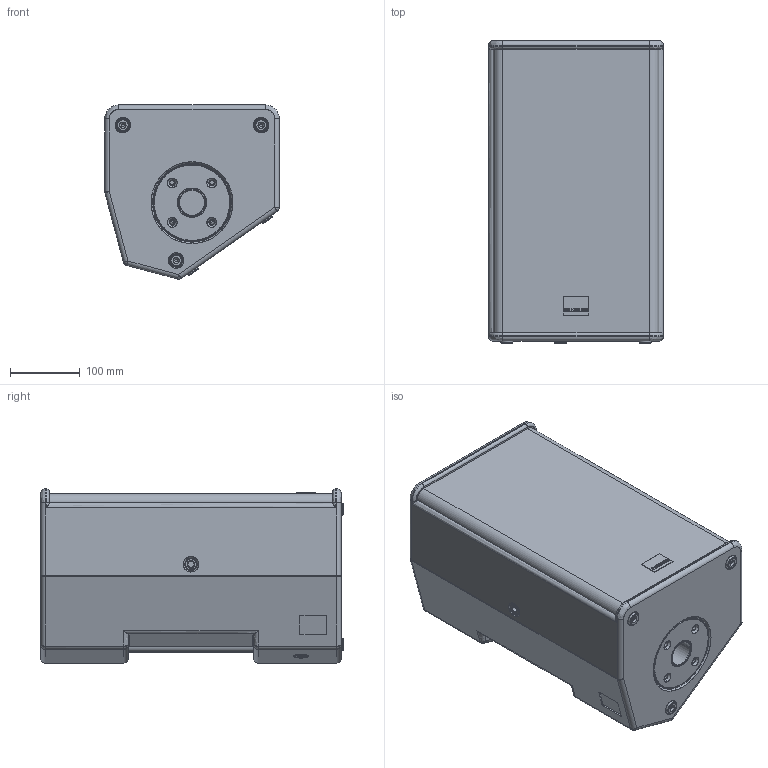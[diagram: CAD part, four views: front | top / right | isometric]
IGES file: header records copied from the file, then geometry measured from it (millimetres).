
Start section: SolidWorks IGES file using analytic representation for surfaces
Global section: file name: C:\Dokumente und Einstellungen\PC_Fabian\Desktop\TS-Serie\Seeburg_TSM8.IGS; native system: SolidWorks 2009; preprocessor: SolidWorks 2009; author: PC_Fabian; date: 121017.132450; units: millimetre
Bounding box: 250 x 433 x 249.43 mm (x, y, z)
Surface area: 1037962.5 mm2 (no closed solid volume)
Topology: 0 solids, 0 shells, 740 faces, 10805 edges, 10803 vertices
Faces by surface type: revolution 436, bspline 304
